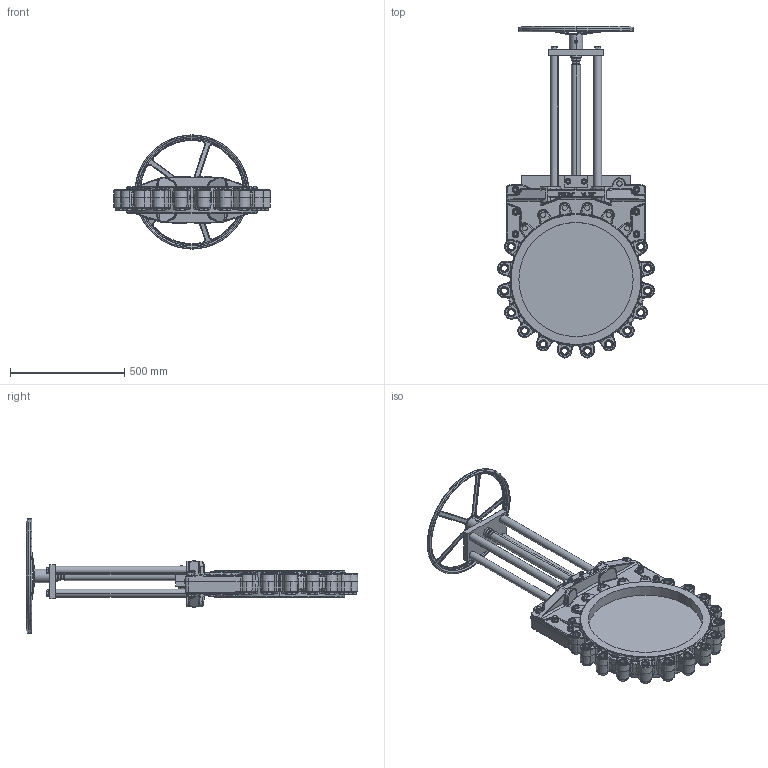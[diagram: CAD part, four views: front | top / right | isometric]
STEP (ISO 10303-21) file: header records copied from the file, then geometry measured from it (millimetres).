
FILE_DESCRIPTION (( 'STEP AP214' ), '1' );
FILE_NAME ('VLA DN 0500.STEP', '2022-09-20T06:59:50', ( '' ), ( '' ), 'SwSTEP 2.0', 'SolidWorks 2021', '' );
FILE_SCHEMA (( 'AUTOMOTIVE_DESIGN' ));
Length unit declared in the file: millimetre
Products named in the file (1): VLA DN 0500
Bounding box: 687.18 x 1453.05 x 500 mm (x, y, z)
Volume: 29982245.1 mm3; surface area: 2551623.5 mm2
Topology: 1 solids, 42 shells, 3246 faces, 7631 edges, 4476 vertices
Faces by surface type: plane 957, cylinder 828, bspline 632, cone 518, torus 284, sphere 27
Entity records: 164847 total; most frequent: CARTESIAN_POINT 59712, ORIENTED_EDGE 14998, DIRECTION 13963, EDGE_CURVE 7499, AXIS2_PLACEMENT_3D 5745, VERTEX_POINT 4476, EDGE_LOOP 3499, UNCERTAINTY_MEASURE_WITH_UNIT 3247
